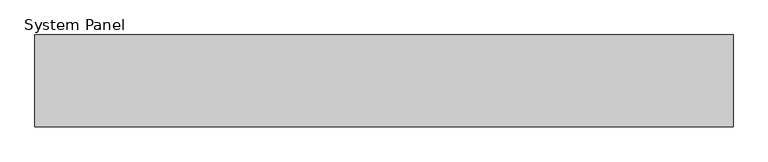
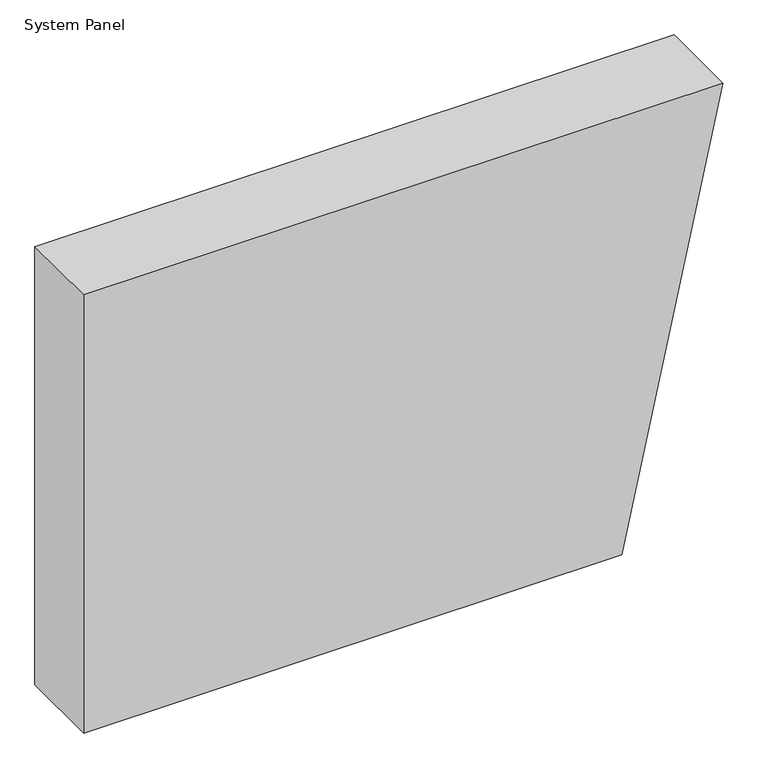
"""IFC4 building model written with IfcOpenShell, lengths in millimetres: plate geometry, System Panel : MetecnoPanel 200mm Horizontal - Plain Astro - PIR."""

from ifc_helpers import new_model, si_unit, frame, origin, place, context, project, spatial, polyline, outline, extrude, source, transform, mapped, element, save


def system_panel_3ce11bf5(model_context):
    return source(origin(), model_context, "Body", "SweptSolid", [
        extrude(outline(polyline([(0.0, -758.698535), (0.0, 519.5661783), (1100.0, 758.698535), (1100.0, -758.698535), (0.0, -758.698535)])), frame((0.0, -200.0, 0.0), z_axis=(0.0, 1.0, 0.0), x_axis=(0.0, 0.0, 1.0)), (0.0, 0.0, 1.0), 200.0),
    ])


if __name__ == "__main__":
    model = new_model("IFC4")
    model_context = context("Model", 3, world=origin())
    ifc_project = project(units=[si_unit("LENGTHUNIT", "METRE", prefix="MILLI")], contexts=[model_context])
    site = spatial("IfcSite", under=ifc_project)
    building = spatial("IfcBuilding", under=site)
    placement = place(None, origin())
    system_panel_shape = system_panel_3ce11bf5(model_context)
    element("IfcPlate", 1, ObjectType="System Panel : MetecnoPanel 200mm Horizontal - Plain Astro - PIR", at=placement, inside=building, context=model_context, shape_type="MappedRepresentation", body=[
        mapped(system_panel_shape, transform((0.0, 0.0, 0.0), x_axis=(1.0, 0.0, 0.0), y_axis=(0.0, 1.0, 0.0), z_axis=(0.0, 0.0, 1.0))),
    ])
    save(model, "model.ifc")
